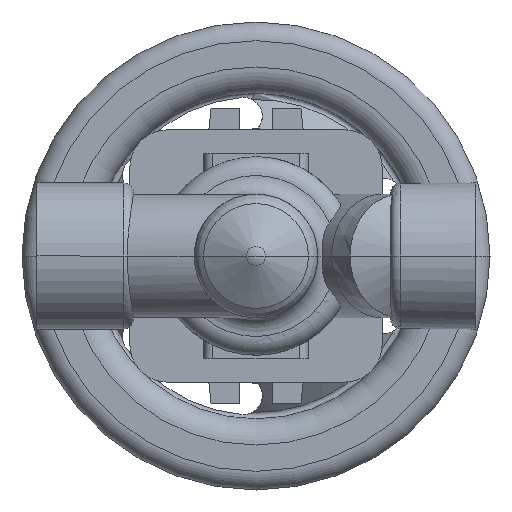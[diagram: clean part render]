
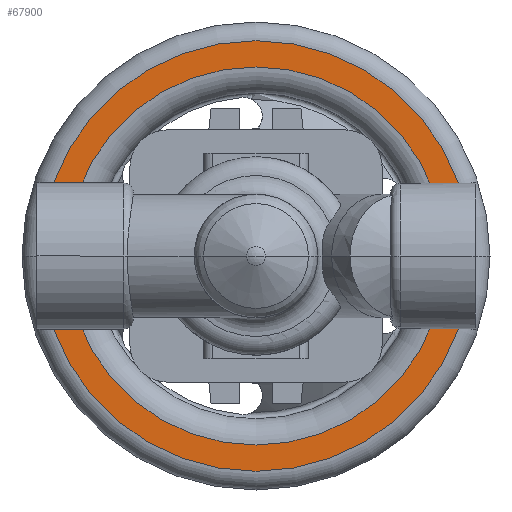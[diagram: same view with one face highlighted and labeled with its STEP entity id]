
A CAD part, front view. The second image highlights one B-rep face of the part: STEP entity #67900.
In plain terms, the highlighted planar face has unit normal (0, -1, 0).
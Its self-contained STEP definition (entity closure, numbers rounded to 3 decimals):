
#67280=CARTESIAN_POINT('',(1.,204.8,0.));
#67290=VERTEX_POINT('',#67280);
#67390=CARTESIAN_POINT('',(116.,204.8,0.));
#67400=VERTEX_POINT('',#67390);
#67430=CARTESIAN_POINT('',(58.5,204.8,0.));
#67440=DIRECTION('',(0.,1.,0.));
#67450=DIRECTION('',(-1.,0.,0.));
#67460=AXIS2_PLACEMENT_3D('',#67430,#67440,#67450);
#67470=CIRCLE('',#67460,57.5);
#67480=CARTESIAN_POINT('',(58.5,204.8,57.5));
#67490=VERTEX_POINT('',#67480);
#67500=EDGE_CURVE('',#67490,#67400,#67470,.T.);
#67520=EDGE_CURVE('',#67290,#67490,#67470,.T.);
#67640=CARTESIAN_POINT('',(4.5,204.8,0.));
#67650=DIRECTION('',(0.,-1.,0.));
#67660=DIRECTION('',(1.,0.,0.));
#67670=AXIS2_PLACEMENT_3D('',#67640,#67650,#67660);
#67680=PLANE('',#67670);
#67690=ORIENTED_EDGE('',*,*,#67500,.F.);
#67700=EDGE_CURVE('',#67400,#67290,#67470,.T.);
#67710=ORIENTED_EDGE('',*,*,#67700,.F.);
#67720=ORIENTED_EDGE('',*,*,#67520,.F.);
#67730=EDGE_LOOP('',(#67720,#67710,#67690));
#67740=FACE_OUTER_BOUND('',#67730,.T.);
#67750=CARTESIAN_POINT('',(58.5,204.8,0.));
#67760=DIRECTION('',(0.,1.,0.));
#67770=DIRECTION('',(-1.,0.,0.));
#67780=AXIS2_PLACEMENT_3D('',#67750,#67760,#67770);
#67790=CIRCLE('',#67780,50.5);
#67800=CARTESIAN_POINT('',(8.,204.8,0.));
#67810=VERTEX_POINT('',#67800);
#67820=CARTESIAN_POINT('',(109.,204.8,0.));
#67830=VERTEX_POINT('',#67820);
#67840=EDGE_CURVE('',#67810,#67830,#67790,.T.);
#67850=ORIENTED_EDGE('',*,*,#67840,.T.);
#67860=EDGE_CURVE('',#67830,#67810,#67790,.T.);
#67870=ORIENTED_EDGE('',*,*,#67860,.T.);
#67880=EDGE_LOOP('',(#67870,#67850));
#67890=FACE_BOUND('',#67880,.T.);
#67900=ADVANCED_FACE('',(#67740,#67890),#67680,.T.);
